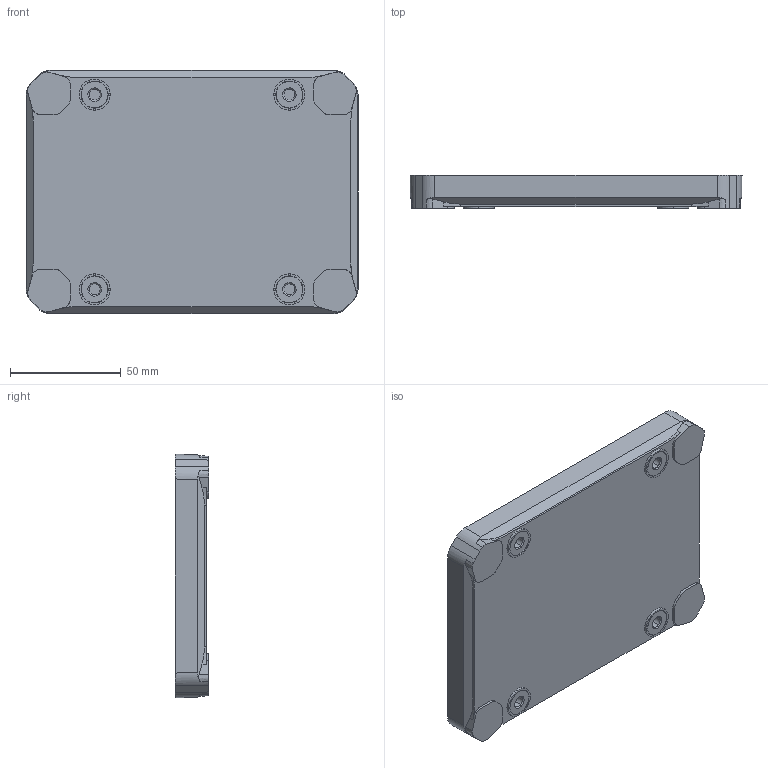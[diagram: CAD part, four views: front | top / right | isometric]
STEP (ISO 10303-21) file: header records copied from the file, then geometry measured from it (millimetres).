
FILE_DESCRIPTION (( 'STEP AP203' ), '1' );
FILE_NAME ('S-E1432.STEP', '2018-05-28T10:20:43', ( '' ), ( '' ), 'SwSTEP 2.0', 'SolidWorks 2018', '' );
FILE_SCHEMA (( 'CONFIG_CONTROL_DESIGN' ));
Products named in the file (1): S-E1432
Bounding box: 150 x 15 x 110 mm (x, y, z)
Volume: 122823.8 mm3; surface area: 55226.1 mm2
Topology: 2 solids, 2 shells, 973 faces, 2784 edges, 1676 vertices
Faces by surface type: plane 381, bspline 256, cylinder 216, cone 120
Entity records: 74297 total; most frequent: CARTESIAN_POINT 52714, ORIENTED_EDGE 5568, DIRECTION 3096, EDGE_CURVE 2784, VERTEX_POINT 1676, B_SPLINE_CURVE_WITH_KNOTS 1208, EDGE_LOOP 1060, AXIS2_PLACEMENT_3D 1058
